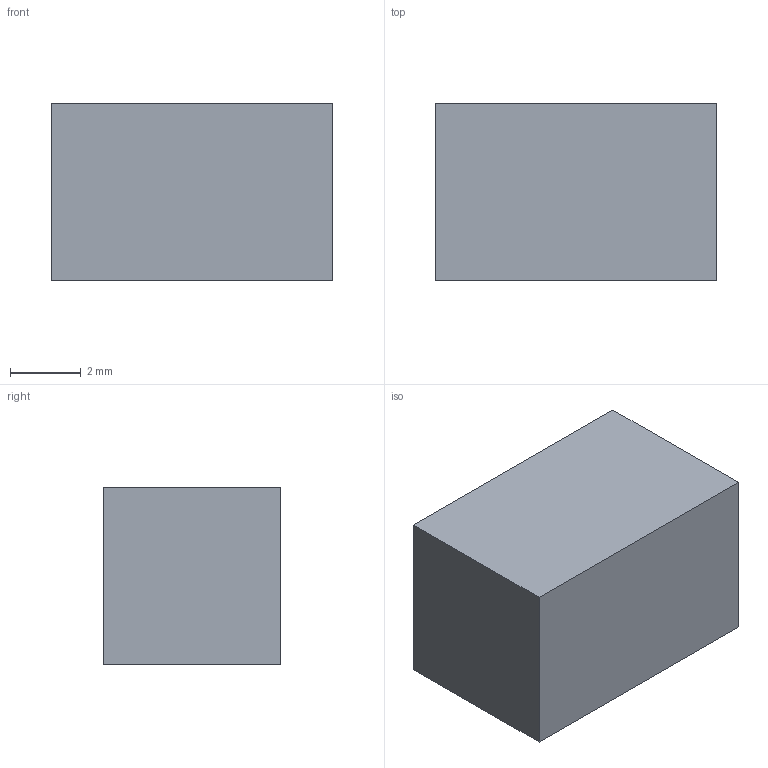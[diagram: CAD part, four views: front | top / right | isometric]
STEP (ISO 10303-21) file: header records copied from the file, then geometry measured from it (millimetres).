
FILE_DESCRIPTION(('Open CASCADE Model'),'2;1');
FILE_NAME('Open CASCADE Shape Model','2026-09-24T05:33:22',('Author'),( 'Open CASCADE'),'Open CASCADE STEP processor 7.8','Open CASCADE 7.8' ,'Unknown');
FILE_SCHEMA(('AUTOMOTIVE_DESIGN { 1 0 10303 214 1 1 1 1 }'));
Length unit declared in the file: millimetre
Products named in the file (1): Open CASCADE STEP translator 7.8 67
Bounding box: 7.95 x 5 x 5 mm (x, y, z)
Volume: 198.8 mm3; surface area: 209 mm2
Topology: 1 solids, 1 shells, 6 faces, 12 edges, 8 vertices
Faces by surface type: plane 6
Entity records: 322 total; most frequent: CARTESIAN_POINT 51, DIRECTION 50, LINE 36, VECTOR 36, ORIENTED_EDGE 24, PCURVE 24, DEFINITIONAL_REPRESENTATION 24, EDGE_CURVE 12
